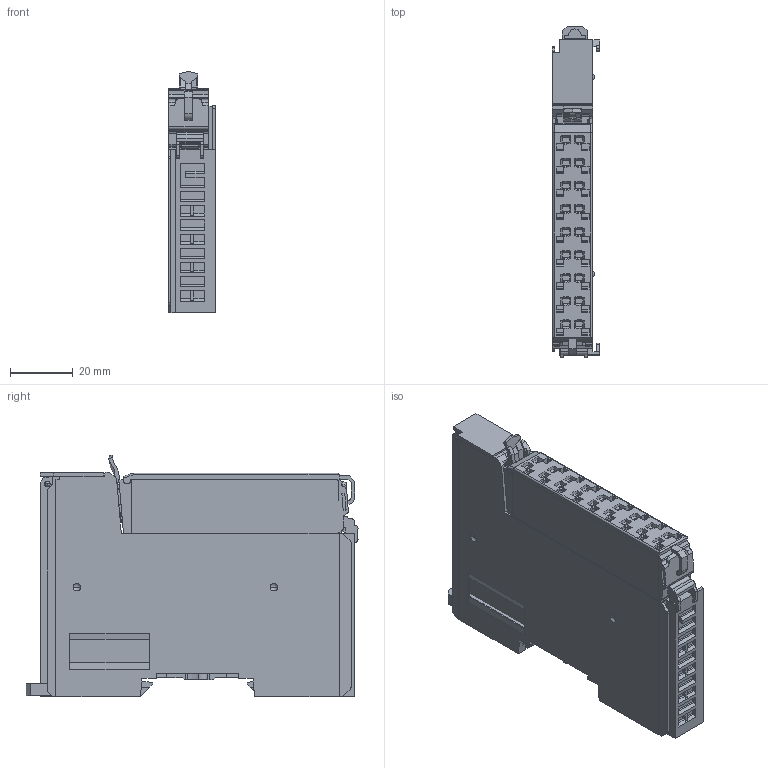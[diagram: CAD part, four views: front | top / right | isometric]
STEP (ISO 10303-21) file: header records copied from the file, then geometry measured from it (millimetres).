
FILE_DESCRIPTION((''),'2;1');
FILE_NAME('Q00002_ASM','2021-06-09T09:54:00',('NING MEI'),(''),'CREO PARAMETRIC BY PTC INC, 2018050','CREO PARAMETRIC BY PTC INC, 2018050','');
FILE_SCHEMA(('CONFIG_CONTROL_DESIGN'));
Products named in the file (1): Q00002_ASM
Bounding box: 15.2 x 105.5 x 76.72 mm (x, y, z)
Volume: 62875.5 mm3; surface area: 48654.2 mm2
Topology: 1 solids, 190 shells, 5619 faces, 15753 edges, 10529 vertices
Faces by surface type: plane 3634, cylinder 1566, extrusion 164, torus 144, bspline 83, cone 20, sphere 8
Entity records: 187660 total; most frequent: CARTESIAN_POINT 41631, ORIENTED_EDGE 31308, DIRECTION 29051, EDGE_CURVE 15745, VECTOR 11217, LINE 11053, VERTEX_POINT 10529, AXIS2_PLACEMENT_3D 8917
